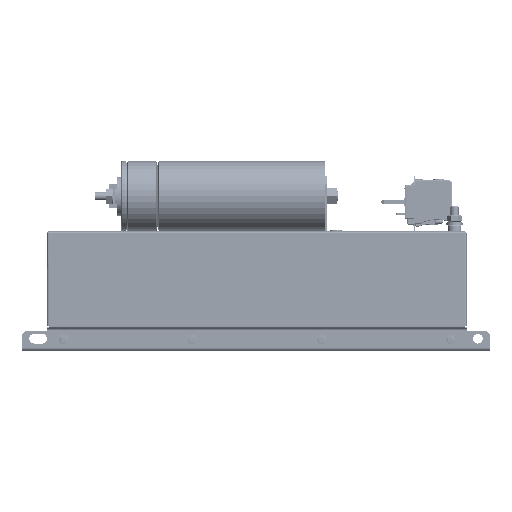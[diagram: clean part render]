
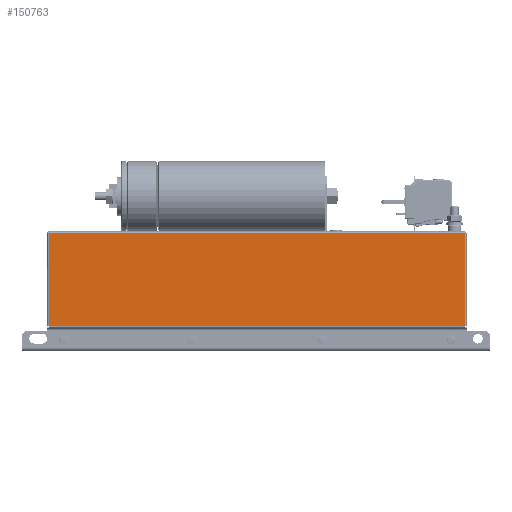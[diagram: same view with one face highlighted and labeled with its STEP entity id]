
A CAD part, left-side view. The second image highlights one B-rep face of the part: STEP entity #150763.
In plain terms, the highlighted planar face has unit normal (-1, 0, 0).
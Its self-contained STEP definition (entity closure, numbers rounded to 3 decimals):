
#6511=PLANE('',#162195);
#11780=FACE_OUTER_BOUND('',#20855,.T.);
#20855=EDGE_LOOP('',(#110356,#110357,#110358,#110359));
#39105=LINE('',#238587,#51342);
#39108=LINE('',#238596,#51345);
#39109=LINE('',#238600,#51346);
#39110=LINE('',#238601,#51347);
#51342=VECTOR('',#188104,10.);
#51345=VECTOR('',#188117,10.);
#51346=VECTOR('',#188122,10.);
#51347=VECTOR('',#188123,10.);
#63906=VERTEX_POINT('',#237911);
#63985=VERTEX_POINT('',#238417);
#63994=VERTEX_POINT('',#238581);
#63996=VERTEX_POINT('',#238599);
#80374=EDGE_CURVE('',#63985,#63994,#39105,.T.);
#80379=EDGE_CURVE('',#63994,#63906,#39108,.T.);
#80381=EDGE_CURVE('',#63985,#63996,#39109,.T.);
#80382=EDGE_CURVE('',#63996,#63906,#39110,.T.);
#110356=ORIENTED_EDGE('',*,*,#80374,.F.);
#110357=ORIENTED_EDGE('',*,*,#80381,.T.);
#110358=ORIENTED_EDGE('',*,*,#80382,.T.);
#110359=ORIENTED_EDGE('',*,*,#80379,.F.);
#150763=ADVANCED_FACE('',(#11780),#6511,.F.);
#162195=AXIS2_PLACEMENT_3D('',#238598,#188120,#188121);
#188104=DIRECTION('',(0.,0.,-1.));
#188117=DIRECTION('',(0.,1.,0.));
#188120=DIRECTION('center_axis',(1.,0.,0.));
#188121=DIRECTION('ref_axis',(0.,0.,
-1.));
#188122=DIRECTION('',(0.,1.,0.));
#188123=DIRECTION('',(0.,0.,-1.));
#237911=CARTESIAN_POINT('',(-140.,256.7,30.453));
#238417=CARTESIAN_POINT('',(-140.,-258.7,145.7));
#238581=CARTESIAN_POINT('',(-140.,-258.7,30.453));
#238587=CARTESIAN_POINT('',(-140.,-258.7,133.71));
#238596=CARTESIAN_POINT('',(-140.,-261.,30.453));
#238598=CARTESIAN_POINT('Origin',(-140.,-261.,29.5));
#238599=CARTESIAN_POINT('',(-140.,256.7,145.7));
#238600=CARTESIAN_POINT('',(-140.,259.,145.7));
#238601=CARTESIAN_POINT('',(-140.,256.7,81.6));
